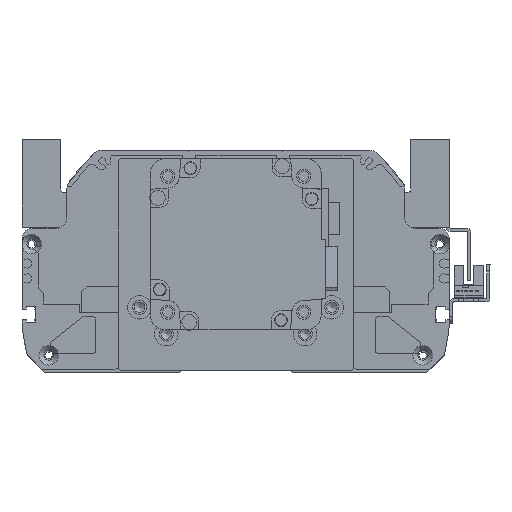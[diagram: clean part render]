
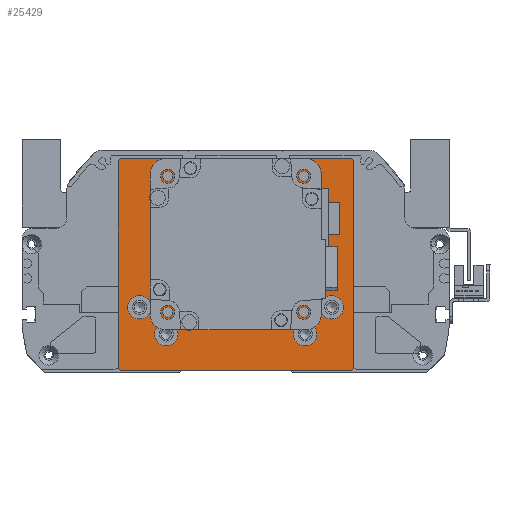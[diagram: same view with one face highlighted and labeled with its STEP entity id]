
A CAD part, front view. The second image highlights one B-rep face of the part: STEP entity #25429.
In plain terms, the highlighted planar face has unit normal (0, -1, 0) as drawn and (0, 0, 1) by its records, which use the part's own axes.
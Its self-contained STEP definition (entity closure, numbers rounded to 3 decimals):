
#2000=FACE_BOUND('',#6015,.T.);
#2001=FACE_BOUND('',#6016,.T.);
#2002=FACE_BOUND('',#6017,.T.);
#2003=FACE_BOUND('',#6018,.T.);
#2004=FACE_BOUND('',#6019,.T.);
#2005=FACE_BOUND('',#6020,.T.);
#2006=FACE_BOUND('',#6021,.T.);
#2007=FACE_BOUND('',#6022,.T.);
#2008=FACE_BOUND('',#6023,.T.);
#3154=CIRCLE('',#28223,2.459);
#3155=CIRCLE('',#28226,2.459);
#3156=CIRCLE('',#28234,2.459);
#3157=CIRCLE('',#28236,2.459);
#3160=CIRCLE('',#28241,5.5);
#3163=CIRCLE('',#28247,5.5);
#3166=CIRCLE('',#28253,5.5);
#3169=CIRCLE('',#28259,5.5);
#3171=CIRCLE('',#28264,35.);
#4434=FACE_OUTER_BOUND('',#6014,.T.);
#6014=EDGE_LOOP('',(#23013,#23014,#23015,#23016,#23017,#23018,#23019,#23020));
#6015=EDGE_LOOP('',(#23021));
#6016=EDGE_LOOP('',(#23022));
#6017=EDGE_LOOP('',(#23023));
#6018=EDGE_LOOP('',(#23024));
#6019=EDGE_LOOP('',(#23025));
#6020=EDGE_LOOP('',(#23026));
#6021=EDGE_LOOP('',(#23027));
#6022=EDGE_LOOP('',(#23028));
#6023=EDGE_LOOP('',(#23029));
#8114=LINE('',#44296,#10265);
#8117=LINE('',#44305,#10268);
#8120=LINE('',#44310,#10271);
#8122=LINE('',#44313,#10273);
#8123=LINE('',#44316,#10274);
#8125=LINE('',#44320,#10276);
#8127=LINE('',#44324,#10278);
#8140=LINE('',#44386,#10291);
#10265=VECTOR('',#35019,10.);
#10268=VECTOR('',#35028,10.);
#10271=VECTOR('',#35033,10.);
#10273=VECTOR('',#35037,10.);
#10274=VECTOR('',#35040,10.);
#10276=VECTOR('',#35044,10.);
#10278=VECTOR('',#35048,10.);
#10291=VECTOR('',#35127,10.);
#12681=VERTEX_POINT('',#44289);
#12682=VERTEX_POINT('',#44293);
#12683=VERTEX_POINT('',#44295);
#12684=VERTEX_POINT('',#44299);
#12685=VERTEX_POINT('',#44303);
#12686=VERTEX_POINT('',#44304);
#12687=VERTEX_POINT('',#44309);
#12688=VERTEX_POINT('',#44315);
#12689=VERTEX_POINT('',#44319);
#12690=VERTEX_POINT('',#44323);
#12691=VERTEX_POINT('',#44327);
#12692=VERTEX_POINT('',#44331);
#12695=VERTEX_POINT('',#44340);
#12698=VERTEX_POINT('',#44351);
#12701=VERTEX_POINT('',#44362);
#12704=VERTEX_POINT('',#44373);
#12706=VERTEX_POINT('',#44382);
#16139=EDGE_CURVE('',#12681,#12681,#3154,.T.);
#16142=EDGE_CURVE('',#12683,#12682,#8114,.T.);
#16144=EDGE_CURVE('',#12684,#12684,#3155,.T.);
#16146=EDGE_CURVE('',#12685,#12686,#8117,.T.);
#16149=EDGE_CURVE('',#12687,#12686,#8120,.T.);
#16151=EDGE_CURVE('',#12687,#12682,#8122,.T.);
#16152=EDGE_CURVE('',#12683,#12688,#8123,.T.);
#16154=EDGE_CURVE('',#12689,#12688,#8125,.T.);
#16156=EDGE_CURVE('',#12689,#12690,#8127,.T.);
#16158=EDGE_CURVE('',#12691,#12691,#3156,.T.);
#16160=EDGE_CURVE('',#12692,#12692,#3157,.T.);
#16164=EDGE_CURVE('',#12695,#12695,#3160,.T.);
#16169=EDGE_CURVE('',#12698,#12698,#3163,.T.);
#16174=EDGE_CURVE('',#12701,#12701,#3166,.T.);
#16179=EDGE_CURVE('',#12704,#12704,#3169,.T.);
#16183=EDGE_CURVE('',#12706,#12706,#3171,.T.);
#16185=EDGE_CURVE('',#12685,#12690,#8140,.T.);
#23013=ORIENTED_EDGE('',*,*,#16146,.F.);
#23014=ORIENTED_EDGE('',*,*,#16185,.T.);
#23015=ORIENTED_EDGE('',*,*,#16156,.F.);
#23016=ORIENTED_EDGE('',*,*,#16154,.T.);
#23017=ORIENTED_EDGE('',*,*,#16152,.F.);
#23018=ORIENTED_EDGE('',*,*,#16142,.T.);
#23019=ORIENTED_EDGE('',*,*,#16151,.F.);
#23020=ORIENTED_EDGE('',*,*,#16149,.T.);
#23021=ORIENTED_EDGE('',*,*,#16158,.T.);
#23022=ORIENTED_EDGE('',*,*,#16144,.T.);
#23023=ORIENTED_EDGE('',*,*,#16160,.T.);
#23024=ORIENTED_EDGE('',*,*,#16139,.T.);
#23025=ORIENTED_EDGE('',*,*,#16164,.T.);
#23026=ORIENTED_EDGE('',*,*,#16169,.T.);
#23027=ORIENTED_EDGE('',*,*,#16174,.T.);
#23028=ORIENTED_EDGE('',*,*,#16179,.T.);
#23029=ORIENTED_EDGE('',*,*,#16183,.T.);
#24182=PLANE('',#28266);
#25429=ADVANCED_FACE('',(#4434,#2000,#2001,#2002,#2003,#2004,#2005,#2006,
#2007,#2008),#24182,.T.);
#28223=AXIS2_PLACEMENT_3D('',#44290,#35013,#35014);
#28226=AXIS2_PLACEMENT_3D('',#44300,#35023,#35024);
#28234=AXIS2_PLACEMENT_3D('',#44328,#35052,#35053);
#28236=AXIS2_PLACEMENT_3D('',#44332,#35057,#35058);
#28241=AXIS2_PLACEMENT_3D('',#44341,#35068,#35069);
#28247=AXIS2_PLACEMENT_3D('',#44352,#35082,#35083);
#28253=AXIS2_PLACEMENT_3D('',#44363,#35096,#35097);
#28259=AXIS2_PLACEMENT_3D('',#44374,#35110,#35111);
#28264=AXIS2_PLACEMENT_3D('',#44383,#35122,#35123);
#28266=AXIS2_PLACEMENT_3D('',#44387,#35128,#35129);
#35013=DIRECTION('center_axis',(0.,0.,-1.));
#35014=DIRECTION('ref_axis',(1.,0.,0.));
#35019=DIRECTION('',(-1.,0.,0.));
#35023=DIRECTION('center_axis',(0.,0.,-1.));
#35024=DIRECTION('ref_axis',(1.,0.,0.));
#35028=DIRECTION('',(-0.707,0.707,0.));
#35033=DIRECTION('',(0.,-1.,0.));
#35037=DIRECTION('',(0.707,0.707,0.));
#35040=DIRECTION('',(0.707,-0.707,0.));
#35044=DIRECTION('',(0.,1.,0.));
#35048=DIRECTION('',(-0.707,-0.707,0.));
#35052=DIRECTION('center_axis',(0.,0.,-1.));
#35053=DIRECTION('ref_axis',(1.,0.,0.));
#35057=DIRECTION('center_axis',(0.,0.,-1.));
#35058=DIRECTION('ref_axis',(1.,0.,0.));
#35068=DIRECTION('center_axis',(0.,0.,-1.));
#35069=DIRECTION('ref_axis',(1.,0.,0.));
#35082=DIRECTION('center_axis',(0.,0.,-1.));
#35083=DIRECTION('ref_axis',(1.,0.,0.));
#35096=DIRECTION('center_axis',(0.,0.,-1.));
#35097=DIRECTION('ref_axis',(1.,0.,0.));
#35110=DIRECTION('center_axis',(0.,0.,-1.));
#35111=DIRECTION('ref_axis',(1.,0.,0.));
#35122=DIRECTION('center_axis',(0.,0.,-1.));
#35123=DIRECTION('ref_axis',(1.,0.,0.));
#35127=DIRECTION('',(1.,0.,0.));
#35128=DIRECTION('center_axis',(0.,0.,1.));
#35129=DIRECTION('ref_axis',(1.,0.,0.));
#44289=CARTESIAN_POINT('',(29.361,41.32,89.));
#44290=CARTESIAN_POINT('Origin',(31.82,41.32,89.));
#44293=CARTESIAN_POINT('',(-54.,49.5,89.));
#44295=CARTESIAN_POINT('',(54.,49.5,89.));
#44296=CARTESIAN_POINT('',(55.,49.5,89.));
#44299=CARTESIAN_POINT('',(-34.278,41.32,89.));
#44300=CARTESIAN_POINT('Origin',(-31.82,41.32,89.));
#44303=CARTESIAN_POINT('',(-54.,-49.5,89.));
#44304=CARTESIAN_POINT('',(-55.,-48.5,89.));
#44305=CARTESIAN_POINT('',(-53.125,-50.375,89.));
#44309=CARTESIAN_POINT('',(-55.,48.5,89.));
#44310=CARTESIAN_POINT('',(-55.,49.5,89.));
#44313=CARTESIAN_POINT('',(-53.125,50.375,89.));
#44315=CARTESIAN_POINT('',(55.,48.5,89.));
#44316=CARTESIAN_POINT('',(53.125,50.375,89.));
#44319=CARTESIAN_POINT('',(55.,-48.5,89.));
#44320=CARTESIAN_POINT('',(55.,-49.5,89.));
#44323=CARTESIAN_POINT('',(54.,-49.5,89.));
#44324=CARTESIAN_POINT('',(53.125,-50.375,89.));
#44327=CARTESIAN_POINT('',(29.361,-22.32,89.));
#44328=CARTESIAN_POINT('Origin',(31.82,-22.32,89.));
#44331=CARTESIAN_POINT('',(-34.278,-22.32,89.));
#44332=CARTESIAN_POINT('Origin',(-31.82,-22.32,89.));
#44340=CARTESIAN_POINT('',(27.,-32.5,89.));
#44341=CARTESIAN_POINT('Origin',(32.5,-32.5,89.));
#44351=CARTESIAN_POINT('',(-50.5,-20.,89.));
#44352=CARTESIAN_POINT('Origin',(-45.,-20.,89.));
#44362=CARTESIAN_POINT('',(-38.,-32.5,89.));
#44363=CARTESIAN_POINT('Origin',(-32.5,-32.5,89.));
#44373=CARTESIAN_POINT('',(39.5,-20.,89.));
#44374=CARTESIAN_POINT('Origin',(45.,-20.,89.));
#44382=CARTESIAN_POINT('',(-35.,9.5,89.));
#44383=CARTESIAN_POINT('Origin',(0.,9.5,89.));
#44386=CARTESIAN_POINT('',(-55.,-49.5,89.));
#44387=CARTESIAN_POINT('Origin',(0.,0.,
89.));
